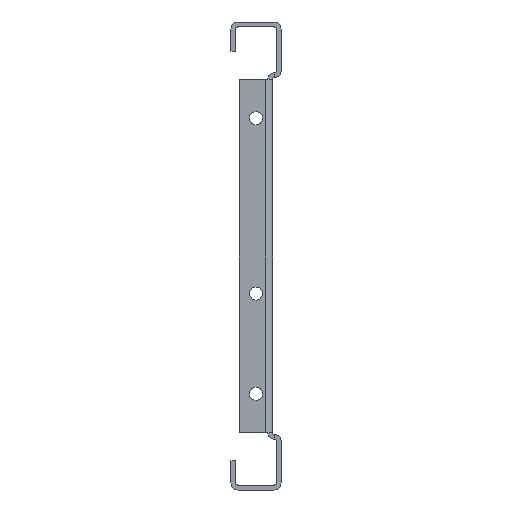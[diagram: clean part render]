
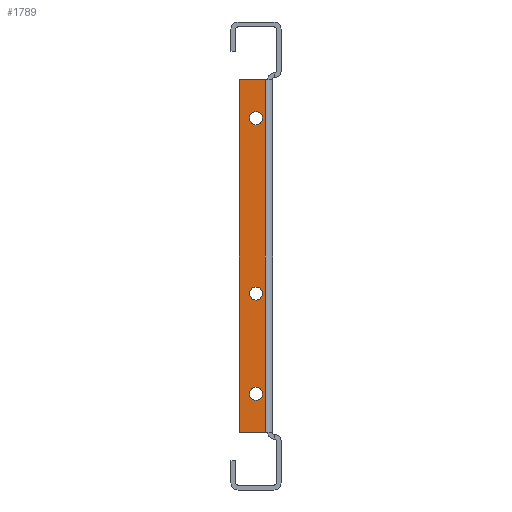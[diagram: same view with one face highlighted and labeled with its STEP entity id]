
A CAD part, left-side view. The second image highlights one B-rep face of the part: STEP entity #1789.
In plain terms, the highlighted planar face has unit normal (-1, 0, 0).
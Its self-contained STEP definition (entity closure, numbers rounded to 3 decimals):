
#192=LINE('',#2986,#332);
#196=LINE('',#3002,#336);
#198=LINE('',#3012,#338);
#199=LINE('',#3013,#339);
#332=VECTOR('',#2447,1000.);
#336=VECTOR('',#2461,1000.);
#338=VECTOR('',#2471,1000.);
#339=VECTOR('',#2472,1000.);
#724=ORIENTED_EDGE('',*,*,#1052,.F.);
#725=ORIENTED_EDGE('',*,*,#1053,.F.);
#726=ORIENTED_EDGE('',*,*,#1054,.F.);
#727=ORIENTED_EDGE('',*,*,#1050,.T.);
#728=ORIENTED_EDGE('',*,*,#1055,.T.);
#729=ORIENTED_EDGE('',*,*,#1042,.T.);
#730=ORIENTED_EDGE('',*,*,#1056,.T.);
#1042=EDGE_CURVE('',#1224,#1225,#192,.T.);
#1050=EDGE_CURVE('',#1231,#1230,#196,.T.);
#1052=EDGE_CURVE('',#1232,#1232,#1332,.T.);
#1053=EDGE_CURVE('',#1233,#1233,#1333,.T.);
#1054=EDGE_CURVE('',#1234,#1234,#1334,.T.);
#1055=EDGE_CURVE('',#1230,#1224,#198,.T.);
#1056=EDGE_CURVE('',#1225,#1231,#199,.T.);
#1224=VERTEX_POINT('',#2987);
#1225=VERTEX_POINT('',#2988);
#1230=VERTEX_POINT('',#3001);
#1231=VERTEX_POINT('',#3003);
#1232=VERTEX_POINT('',#3007);
#1233=VERTEX_POINT('',#3009);
#1234=VERTEX_POINT('',#3011);
#1332=CIRCLE('',#1983,2.464);
#1333=CIRCLE('',#1984,2.464);
#1334=CIRCLE('',#1985,2.464);
#1443=EDGE_LOOP('',(#724));
#1444=EDGE_LOOP('',(#725));
#1445=EDGE_LOOP('',(#726));
#1446=EDGE_LOOP('',(#727,#728,#729,#730));
#1615=FACE_BOUND('',#1443,.T.);
#1616=FACE_BOUND('',#1444,.T.);
#1617=FACE_BOUND('',#1445,.T.);
#1618=FACE_BOUND('',#1446,.T.);
#1723=PLANE('',#1982);
#1789=ADVANCED_FACE('',(#1615,#1616,#1617,#1618),#1723,.T.);
#1982=AXIS2_PLACEMENT_3D('',#3005,#2463,#2464);
#1983=AXIS2_PLACEMENT_3D('',#3006,#2465,#2466);
#1984=AXIS2_PLACEMENT_3D('',#3008,#2467,#2468);
#1985=AXIS2_PLACEMENT_3D('',#3010,#2469,#2470);
#2447=DIRECTION('',(0.,1.,0.));
#2461=DIRECTION('',(0.,-1.,0.));
#2463=DIRECTION('',(-1.,0.,0.));
#2464=DIRECTION('',(0.,-1.,0.));
#2465=DIRECTION('',(-1.,0.,0.));
#2466=DIRECTION('',(0.,-1.,0.));
#2467=DIRECTION('',(-1.,0.,0.));
#2468=DIRECTION('',(0.,-1.,0.));
#2469=DIRECTION('',(-1.,0.,0.));
#2470=DIRECTION('',(0.,-1.,0.));
#2471=DIRECTION('',(0.,0.,1.));
#2472=DIRECTION('',(0.,0.,-1.));
#2986=CARTESIAN_POINT('',(-247.65,4.762,66.929));
#2987=CARTESIAN_POINT('',(-247.65,5.918,66.929));
#2988=CARTESIAN_POINT('',(-247.65,15.875,66.929));
#3001=CARTESIAN_POINT('',(-247.65,5.918,-66.929));
#3002=CARTESIAN_POINT('',(-247.65,4.762,-66.929));
#3003=CARTESIAN_POINT('',(-247.65,15.875,-66.929));
#3005=CARTESIAN_POINT('',(-247.65,4.762,-67.208));
#3006=CARTESIAN_POINT('',(-247.65,9.525,52.388));
#3007=CARTESIAN_POINT('',(-247.65,7.061,52.388));
#3008=CARTESIAN_POINT('',(-247.65,9.525,-52.388));
#3009=CARTESIAN_POINT('',(-247.65,7.061,-52.388));
#3010=CARTESIAN_POINT('',(-247.65,9.525,-14.288));
#3011=CARTESIAN_POINT('',(-247.65,7.061,-14.288));
#3012=CARTESIAN_POINT('',(-247.65,5.918,-67.208));
#3013=CARTESIAN_POINT('',(-247.65,15.875,67.208));
